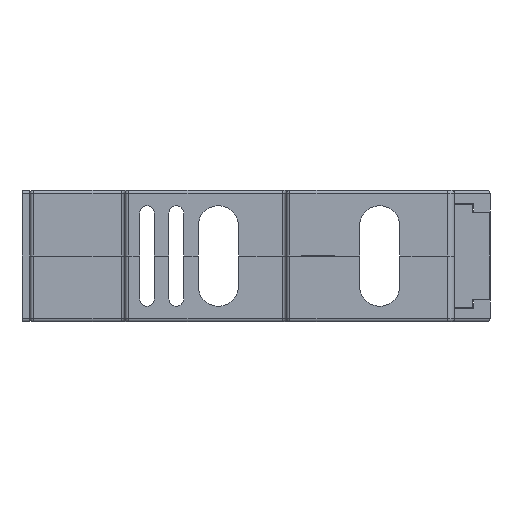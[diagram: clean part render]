
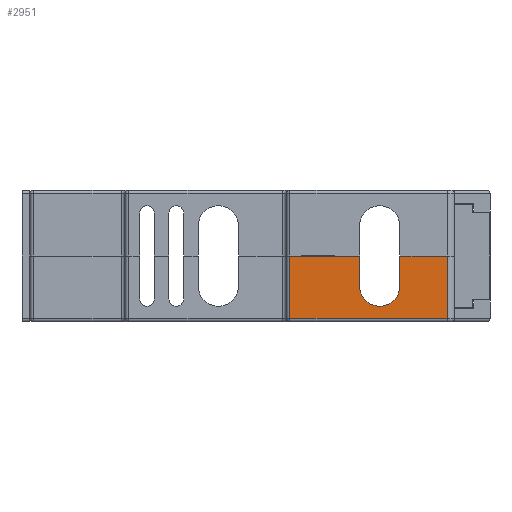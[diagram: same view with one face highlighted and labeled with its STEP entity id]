
A CAD part, left-side view. The second image highlights one B-rep face of the part: STEP entity #2951.
In plain terms, the highlighted planar face has unit normal (-1, 0, 0).
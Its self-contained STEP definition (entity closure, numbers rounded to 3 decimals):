
#2951=ADVANCED_FACE('',(#6595),#6597,.T.);
#6595=FACE_BOUND('',#6596,.T.);
#6596=EDGE_LOOP('',(#9552,#9553,#9554,#9555,#9556,#9557,#9558,#9559));
#6597=PLANE('',#6598);
#6598=AXIS2_PLACEMENT_3D('',#6599,#6600,#6601);
#6599=CARTESIAN_POINT('',(-45.,23.,0.));
#6600=DIRECTION('',(-1.,0.,0.));
#6601=DIRECTION('',(0.,-1.,0.));
#9552=ORIENTED_EDGE('',*,*,#11152,.T.);
#9553=ORIENTED_EDGE('',*,*,#11362,.T.);
#9554=ORIENTED_EDGE('',*,*,#11101,.F.);
#9555=ORIENTED_EDGE('',*,*,#11361,.T.);
#9556=ORIENTED_EDGE('',*,*,#11363,.T.);
#9557=ORIENTED_EDGE('',*,*,#11364,.T.);
#9558=ORIENTED_EDGE('',*,*,#11315,.F.);
#9559=ORIENTED_EDGE('',*,*,#11365,.F.);
#11101=EDGE_CURVE('',#12876,#12878,#12879,.T.);
#11152=EDGE_CURVE('',#12959,#12956,#12960,.T.);
#11315=EDGE_CURVE('',#13215,#13217,#13218,.T.);
#11361=EDGE_CURVE('',#12876,#13283,#13285,.F.);
#11362=EDGE_CURVE('',#12956,#12878,#13286,.T.);
#11363=EDGE_CURVE('',#13283,#13287,#13288,.F.);
#11364=EDGE_CURVE('',#13287,#13217,#13289,.F.);
#11365=EDGE_CURVE('',#12959,#13215,#13290,.T.);
#12876=VERTEX_POINT('',#16434);
#12878=VERTEX_POINT('',#16438);
#12879=LINE('',#16439,#16440);
#12956=VERTEX_POINT('',#16629);
#12959=VERTEX_POINT('',#16638);
#12960=LINE('',#16639,#16640);
#13215=VERTEX_POINT('',#17249);
#13217=VERTEX_POINT('',#17254);
#13218=LINE('',#17255,#17256);
#13283=VERTEX_POINT('',#17418);
#13285=LINE('',#17422,#17423);
#13286=LINE('',#17425,#17426);
#13287=VERTEX_POINT('',#17428);
#13288=CIRCLE('',#17429,2.75);
#13289=LINE('',#17433,#17434);
#13290=LINE('',#17436,#17437);
#16434=CARTESIAN_POINT('',(-45.,7.5,9.));
#16438=CARTESIAN_POINT('',(-45.,1.,9.));
#16439=CARTESIAN_POINT('',(-45.,7.5,9.));
#16440=VECTOR('',#16441,1.);
#16441=DIRECTION('',(0.,-1.,0.));
#16629=CARTESIAN_POINT('',(-45.,1.,0.5));
#16638=CARTESIAN_POINT('',(-45.,22.5,0.5));
#16639=CARTESIAN_POINT('',(-45.,22.5,0.5));
#16640=VECTOR('',#16641,1.);
#16641=DIRECTION('',(0.,-1.,0.));
#17249=CARTESIAN_POINT('',(-45.,22.5,9.));
#17254=CARTESIAN_POINT('',(-45.,13.,9.));
#17255=CARTESIAN_POINT('',(-45.,22.5,9.));
#17256=VECTOR('',#17257,1.);
#17257=DIRECTION('',(0.,-1.,0.));
#17418=CARTESIAN_POINT('',(-45.,7.5,4.9));
#17422=CARTESIAN_POINT('',(-45.,7.5,4.9));
#17423=VECTOR('',#17424,1.);
#17424=DIRECTION('',(0.,0.,1.));
#17425=CARTESIAN_POINT('',(-45.,1.,0.5));
#17426=VECTOR('',#17427,1.);
#17427=DIRECTION('',(0.,0.,1.));
#17428=CARTESIAN_POINT('',(-45.,13.,4.9));
#17429=AXIS2_PLACEMENT_3D('',#17430,#17431,#17432);
#17430=CARTESIAN_POINT('',(-45.,10.25,4.9));
#17431=DIRECTION('',(-1.,0.,0.));
#17432=DIRECTION('',(0.,1.,0.));
#17433=CARTESIAN_POINT('',(-45.,13.,9.));
#17434=VECTOR('',#17435,1.);
#17435=DIRECTION('',(0.,0.,-1.));
#17436=CARTESIAN_POINT('',(-45.,22.5,0.5));
#17437=VECTOR('',#17438,1.);
#17438=DIRECTION('',(0.,0.,1.));
